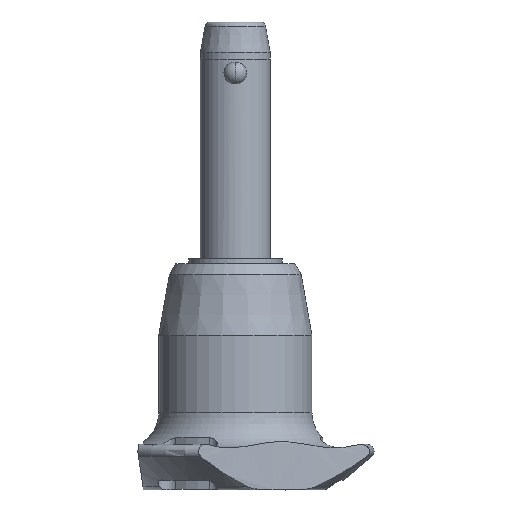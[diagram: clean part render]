
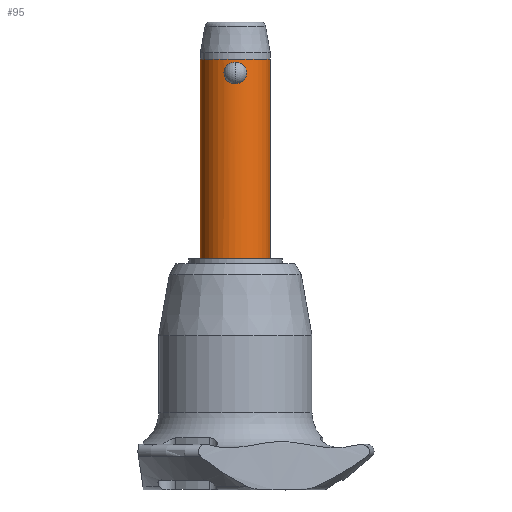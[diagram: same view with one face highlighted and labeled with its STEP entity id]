
A CAD part, front view. The second image highlights one B-rep face of the part: STEP entity #95.
In plain terms, the highlighted cylindrical face has radius 6 mm (diameter 12 mm), a partial arc.
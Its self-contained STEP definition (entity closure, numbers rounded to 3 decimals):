
#5 = CARTESIAN_POINT ( 'NONE',  ( 0., 0., 4.24 ) ) ;
#19 = VECTOR ( 'NONE', #2376, 1000. ) ;
#36 = CARTESIAN_POINT ( 'NONE',  ( 0.966, -5.923, 0.232 ) ) ;
#61 = CARTESIAN_POINT ( 'NONE',  ( 0., -6., 3.708 ) ) ;
#95 = ADVANCED_FACE ( 'NONE', ( #231, #1583 ), #1819, .T. ) ;
#110 = CARTESIAN_POINT ( 'NONE',  ( -0.853, -5.94, 0.177 ) ) ;
#128 = CARTESIAN_POINT ( 'NONE',  ( -1.177, -5.884, 3.347 ) ) ;
#141 = CARTESIAN_POINT ( 'NONE',  ( -1.9, -5.692, 2.359 ) ) ;
#155 = CARTESIAN_POINT ( 'NONE',  ( -0.127, -6., 3.708 ) ) ;
#231 = FACE_OUTER_BOUND ( 'NONE', #863, .T. ) ;
#234 = DIRECTION ( 'NONE',  ( 0., 0., 1. ) ) ;
#271 = CARTESIAN_POINT ( 'NONE',  ( 1.178, -5.884, 0.362 ) ) ;
#285 = CARTESIAN_POINT ( 'NONE',  ( 1.543, -5.799, 0.699 ) ) ;
#336 = CARTESIAN_POINT ( 'NONE',  ( -0.854, -5.94, 3.53 ) ) ;
#349 = EDGE_CURVE ( 'NONE', #2215, #586, #2509, .T. ) ;
#368 = CARTESIAN_POINT ( 'NONE',  ( 0., 0., -30. ) ) ;
#399 = DIRECTION ( 'NONE',  ( 0., 0., -1. ) ) ;
#415 = CARTESIAN_POINT ( 'NONE',  ( 0., -6., 3.708 ) ) ;
#442 = EDGE_CURVE ( 'NONE', #2200, #2233, #2419, .T. ) ;
#458 = CARTESIAN_POINT ( 'NONE',  ( 0., 0., -30. ) ) ;
#482 = CARTESIAN_POINT ( 'NONE',  ( 1.277, -5.863, 0.437 ) ) ;
#485 = DIRECTION ( 'NONE',  ( 0., 0., 1. ) ) ;
#497 = CARTESIAN_POINT ( 'NONE',  ( 1.955, -5.673, 1.979 ) ) ;
#566 = CARTESIAN_POINT ( 'NONE',  ( 0., -6., 3.708 ) ) ;
#578 = CARTESIAN_POINT ( 'NONE',  ( -1.46, -5.821, 3.103 ) ) ;
#586 = VERTEX_POINT ( 'NONE', #1122 ) ;
#596 = CIRCLE ( 'NONE', #1553, 6. ) ;
#598 = CARTESIAN_POINT ( 'NONE',  ( 6., 0., -30. ) ) ;
#687 = AXIS2_PLACEMENT_3D ( 'NONE', #458, #485, #2767 ) ;
#724 = CARTESIAN_POINT ( 'NONE',  ( 1.459, -5.821, 0.604 ) ) ;
#738 = CARTESIAN_POINT ( 'NONE',  ( 1.687, -5.758, 0.899 ) ) ;
#755 = CARTESIAN_POINT ( 'NONE',  ( 1.749, -5.74, 1.007 ) ) ;
#776 = EDGE_CURVE ( 'NONE', #2438, #1381, #1030, .T. ) ;
#781 = ORIENTED_EDGE ( 'NONE', *, *, #442, .T. ) ;
#785 = VECTOR ( 'NONE', #234, 1000. ) ;
#786 = CARTESIAN_POINT ( 'NONE',  ( 0.498, -5.981, 3.652 ) ) ;
#794 = CARTESIAN_POINT ( 'NONE',  ( -1.179, -5.884, 0.363 ) ) ;
#836 = CARTESIAN_POINT ( 'NONE',  ( -1.278, -5.863, 0.437 ) ) ;
#863 = EDGE_LOOP ( 'NONE', ( #2246, #1516, #781, #1949 ) ) ;
#955 = CARTESIAN_POINT ( 'NONE',  ( 0.62, -5.969, 3.619 ) ) ;
#982 = CARTESIAN_POINT ( 'NONE',  ( 1.955, -5.673, 1.6 ) ) ;
#1030 = B_SPLINE_CURVE_WITH_KNOTS ( 'NONE', 3,
 ( #1871, #1431, #2084, #2125, #36, #271, #482, #724, #285, #738, #755, #2334, #982, #497, #2806, #1178, #1192, #1205, #2365, #1886, #2321, #2792, #2764, #955, #786, #1637, #2111, #61 ),
 .UNSPECIFIED., .F., .F.,
 ( 4, 2, 2, 2, 2, 2, 2, 2, 2, 2, 2, 2, 2, 4 ),
 ( 0.006, 0.007, 0.007, 0.008, 0.008, 0.008, 0.009, 0.009, 0.01, 0.011, 0.011, 0.011, 0.012, 0.012 ),
 .UNSPECIFIED. ) ;
#1033 = CARTESIAN_POINT ( 'NONE',  ( -0.504, -5.983, 0.045 ) ) ;
#1058 = CARTESIAN_POINT ( 'NONE',  ( 6., 0., -30. ) ) ;
#1059 = CARTESIAN_POINT ( 'NONE',  ( -0.966, -5.923, 3.476 ) ) ;
#1073 = CARTESIAN_POINT ( 'NONE',  ( -1.942, -5.677, 1.604 ) ) ;
#1090 = DIRECTION ( 'NONE',  ( 1., 0., 0. ) ) ;
#1122 = CARTESIAN_POINT ( 'NONE',  ( -6., 0., 4.24 ) ) ;
#1178 = CARTESIAN_POINT ( 'NONE',  ( 1.89, -5.695, 2.349 ) ) ;
#1192 = CARTESIAN_POINT ( 'NONE',  ( 1.851, -5.708, 2.47 ) ) ;
#1205 = CARTESIAN_POINT ( 'NONE',  ( 1.7, -5.755, 2.812 ) ) ;
#1256 = CARTESIAN_POINT ( 'NONE',  ( -1.551, -5.799, 0.69 ) ) ;
#1273 = CARTESIAN_POINT ( 'NONE',  ( -1.541, -5.799, 3.011 ) ) ;
#1287 = CARTESIAN_POINT ( 'NONE',  ( -1.278, -5.863, 3.271 ) ) ;
#1307 = ORIENTED_EDGE ( 'NONE', *, *, #1329, .F. ) ;
#1315 = DIRECTION ( 'NONE',  ( 1., 0., 0. ) ) ;
#1329 = EDGE_CURVE ( 'NONE', #1381, #2438, #2298, .T. ) ;
#1346 = EDGE_CURVE ( 'NONE', #586, #2233, #1411, .T. ) ;
#1371 = CARTESIAN_POINT ( 'NONE',  ( 0., -6., 0. ) ) ;
#1381 = VERTEX_POINT ( 'NONE', #415 ) ;
#1411 = CIRCLE ( 'NONE', #2687, 6. ) ;
#1431 = CARTESIAN_POINT ( 'NONE',  ( 0.25, -6., 0. ) ) ;
#1480 = CARTESIAN_POINT ( 'NONE',  ( -1.955, -5.673, 1.731 ) ) ;
#1493 = CARTESIAN_POINT ( 'NONE',  ( -0.252, -5.996, 3.697 ) ) ;
#1516 = ORIENTED_EDGE ( 'NONE', *, *, #1869, .F. ) ;
#1542 = ORIENTED_EDGE ( 'NONE', *, *, #776, .F. ) ;
#1553 = AXIS2_PLACEMENT_3D ( 'NONE', #368, #399, #1090 ) ;
#1583 = FACE_BOUND ( 'NONE', #2196, .T. ) ;
#1617 = CARTESIAN_POINT ( 'NONE',  ( -6., 0., -30. ) ) ;
#1637 = CARTESIAN_POINT ( 'NONE',  ( 0.252, -5.996, 3.697 ) ) ;
#1705 = CARTESIAN_POINT ( 'NONE',  ( -0.498, -5.981, 3.652 ) ) ;
#1728 = CARTESIAN_POINT ( 'NONE',  ( 6., 0., 4.24 ) ) ;
#1819 = CYLINDRICAL_SURFACE ( 'NONE', #687, 6. ) ;
#1869 = EDGE_CURVE ( 'NONE', #2200, #2215, #596, .T. ) ;
#1871 = CARTESIAN_POINT ( 'NONE',  ( 0., -6., 0. ) ) ;
#1886 = CARTESIAN_POINT ( 'NONE',  ( 1.279, -5.863, 3.27 ) ) ;
#1937 = CARTESIAN_POINT ( 'NONE',  ( -0.25, -6., 0. ) ) ;
#1949 = ORIENTED_EDGE ( 'NONE', *, *, #1346, .F. ) ;
#1966 = CARTESIAN_POINT ( 'NONE',  ( -1.955, -5.673, 2.107 ) ) ;
#2043 = DIRECTION ( 'NONE',  ( 0., 0., 1. ) ) ;
#2084 = CARTESIAN_POINT ( 'NONE',  ( 0.503, -5.983, 0.045 ) ) ;
#2111 = CARTESIAN_POINT ( 'NONE',  ( 0.127, -6., 3.708 ) ) ;
#2125 = CARTESIAN_POINT ( 'NONE',  ( 0.853, -5.94, 0.177 ) ) ;
#2157 = CARTESIAN_POINT ( 'NONE',  ( -0.967, -5.923, 0.233 ) ) ;
#2174 = CARTESIAN_POINT ( 'NONE',  ( -1.687, -5.759, 2.809 ) ) ;
#2190 = CARTESIAN_POINT ( 'NONE',  ( -1.75, -5.74, 2.7 ) ) ;
#2196 = EDGE_LOOP ( 'NONE', ( #1307, #1542 ) ) ;
#2200 = VERTEX_POINT ( 'NONE', #1058 ) ;
#2203 = CARTESIAN_POINT ( 'NONE',  ( -6., 0., -30. ) ) ;
#2215 = VERTEX_POINT ( 'NONE', #2203 ) ;
#2233 = VERTEX_POINT ( 'NONE', #1728 ) ;
#2246 = ORIENTED_EDGE ( 'NONE', *, *, #349, .F. ) ;
#2298 = B_SPLINE_CURVE_WITH_KNOTS ( 'NONE', 3,
 ( #566, #155, #1493, #1705, #2397, #336, #1059, #128, #1287, #578, #1273, #2174, #2190, #141, #1966, #1480, #1073, #2384, #2865, #2824, #1256, #836, #794, #2157, #110, #1033, #1937, #2938 ),
 .UNSPECIFIED., .F., .F.,
 ( 4, 2, 2, 2, 2, 2, 2, 2, 2, 2, 2, 2, 2, 4 ),
 ( 0., 0., 0.001, 0.001, 0.002, 0.002, 0.002, 0.003, 0.003, 0.004, 0.005, 0.005, 0.005, 0.006 ),
 .UNSPECIFIED. ) ;
#2321 = CARTESIAN_POINT ( 'NONE',  ( 1.178, -5.884, 3.346 ) ) ;
#2334 = CARTESIAN_POINT ( 'NONE',  ( 1.901, -5.692, 1.35 ) ) ;
#2365 = CARTESIAN_POINT ( 'NONE',  ( 1.551, -5.799, 3.018 ) ) ;
#2376 = DIRECTION ( 'NONE',  ( 0., 0., 1. ) ) ;
#2384 = CARTESIAN_POINT ( 'NONE',  ( -1.89, -5.695, 1.358 ) ) ;
#2397 = CARTESIAN_POINT ( 'NONE',  ( -0.62, -5.969, 3.619 ) ) ;
#2419 = LINE ( 'NONE', #598, #19 ) ;
#2438 = VERTEX_POINT ( 'NONE', #1371 ) ;
#2509 = LINE ( 'NONE', #1617, #785 ) ;
#2687 = AXIS2_PLACEMENT_3D ( 'NONE', #5, #2043, #1315 ) ;
#2764 = CARTESIAN_POINT ( 'NONE',  ( 0.855, -5.94, 3.53 ) ) ;
#2767 = DIRECTION ( 'NONE',  ( 1., 0., 0. ) ) ;
#2792 = CARTESIAN_POINT ( 'NONE',  ( 0.966, -5.923, 3.476 ) ) ;
#2806 = CARTESIAN_POINT ( 'NONE',  ( 1.942, -5.677, 2.103 ) ) ;
#2824 = CARTESIAN_POINT ( 'NONE',  ( -1.7, -5.755, 0.895 ) ) ;
#2865 = CARTESIAN_POINT ( 'NONE',  ( -1.852, -5.707, 1.239 ) ) ;
#2938 = CARTESIAN_POINT ( 'NONE',  ( 0., -6., 0. ) ) ;
